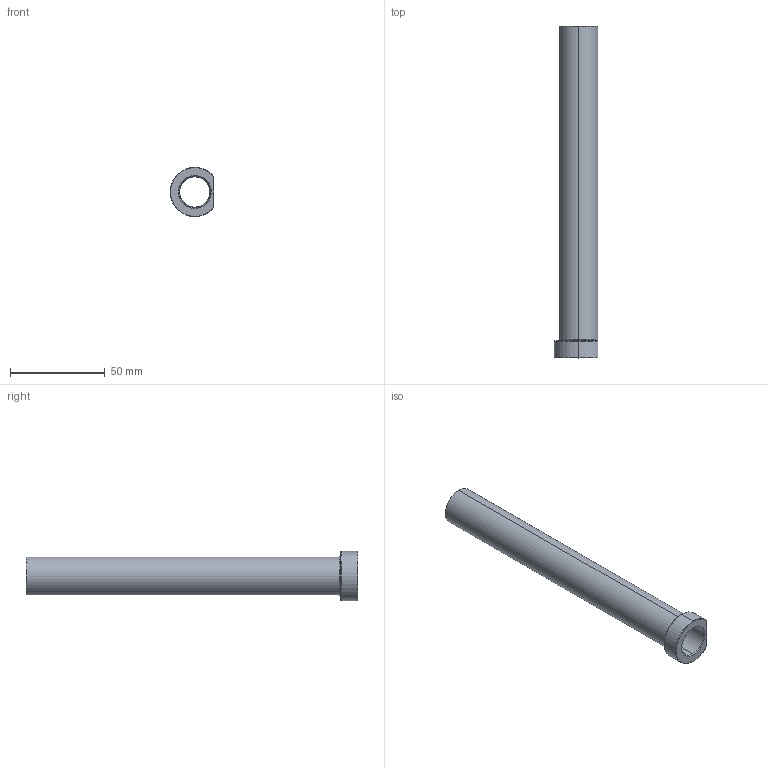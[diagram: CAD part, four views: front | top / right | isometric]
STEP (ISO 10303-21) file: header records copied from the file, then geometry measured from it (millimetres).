
FILE_DESCRIPTION (( 'STEP AP203' ), '1' );
FILE_NAME ('ESD16L175-K.step', '2022-02-05T18:50:19', ( 'Microsoft Corporation' ), ( 'MS' ), 'SwSTEP 2.0', 'SolidWorks 2019', '' );
FILE_SCHEMA (( 'CONFIG_CONTROL_DESIGN' ));
Length unit declared in the file: millimetre
Products named in the file (1): ESD16L175-K
Bounding box: 23 x 175 x 26 mm (x, y, z)
Volume: 19980.9 mm3; surface area: 20657.3 mm2
Topology: 1 solids, 1 shells, 26 faces, 59 edges, 35 vertices
Faces by surface type: cone 10, cylinder 9, plane 4, torus 3
Entity records: 828 total; most frequent: CARTESIAN_POINT 149, DIRECTION 139, ORIENTED_EDGE 118, EDGE_CURVE 59, AXIS2_PLACEMENT_3D 59, VERTEX_POINT 35, CIRCLE 32, EDGE_LOOP 28
